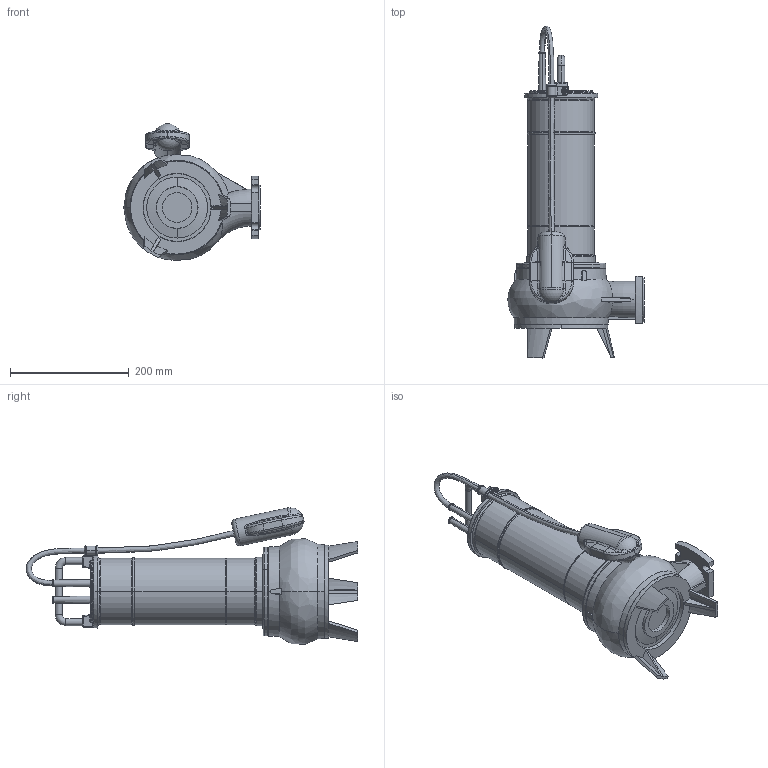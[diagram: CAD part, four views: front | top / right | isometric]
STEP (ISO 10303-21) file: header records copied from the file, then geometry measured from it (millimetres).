
FILE_DESCRIPTION (( 'STEP AP203' ), '1' );
FILE_NAME ('50FWX_09-11_flanged_G.STEP', '2026-06-12T08:36:32', ( '' ), ( '' ), 'SwSTEP 2.0', 'SolidWorks 2024', '' );
FILE_SCHEMA (( 'CONFIG_CONTROL_DESIGN' ));
Length unit declared in the file: millimetre
Products named in the file (1): 50FWX_09-11_flanged_G
Bounding box: 229.99 x 559.86 x 230.59 mm (x, y, z)
Volume: 5750103 mm3; surface area: 307732.3 mm2
Topology: 1 solids, 3 shells, 588 faces, 1422 edges, 859 vertices
Faces by surface type: plane 182, bspline 140, cylinder 109, torus 70, cone 70, sphere 17
Entity records: 24731 total; most frequent: CARTESIAN_POINT 11936, ORIENTED_EDGE 2816, DIRECTION 2434, EDGE_CURVE 1408, AXIS2_PLACEMENT_3D 972, VERTEX_POINT 859, EDGE_LOOP 633, ADVANCED_FACE 588
